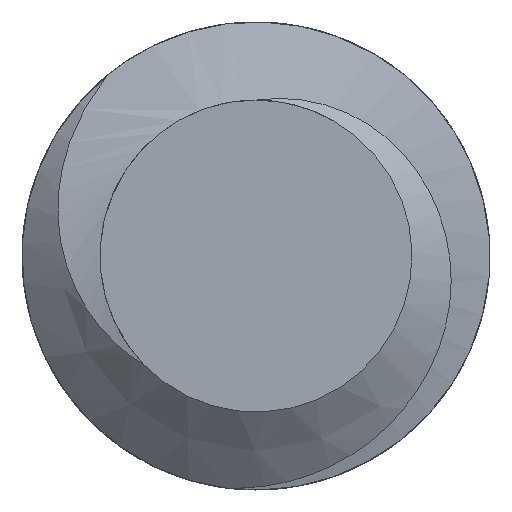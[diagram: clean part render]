
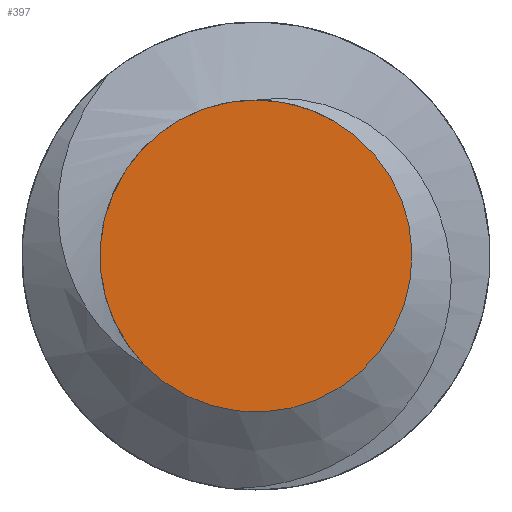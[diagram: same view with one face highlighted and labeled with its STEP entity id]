
A CAD part, front view. The second image highlights one B-rep face of the part: STEP entity #397.
In plain terms, the highlighted planar face has unit normal (0, -1, 0).
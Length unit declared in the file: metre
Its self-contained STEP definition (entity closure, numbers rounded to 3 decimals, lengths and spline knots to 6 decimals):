
#126=ORIENTED_EDGE('',*,*,#242,.F.);
#127=ORIENTED_EDGE('',*,*,#243,.T.);
#242=EDGE_CURVE('',#299,#300,#328,.T.);
#243=EDGE_CURVE('',#299,#300,#329,.T.);
#299=VERTEX_POINT('',#1048);
#300=VERTEX_POINT('',#1049);
#328=CIRCLE('',#437,0.004);
#329=CIRCLE('',#438,0.004);
#335=EDGE_LOOP('',(#126,#127));
#358=FACE_BOUND('',#335,.T.);
#380=PLANE('',#436);
#397=ADVANCED_FACE('',(#358),#380,.T.);
#436=AXIS2_PLACEMENT_3D('',#1046,#483,#484);
#437=AXIS2_PLACEMENT_3D('',#1047,#485,#486);
#438=AXIS2_PLACEMENT_3D('',#1050,#487,#488);
#483=DIRECTION('',(0.,-1.,0.));
#484=DIRECTION('',(1.,0.,0.));
#485=DIRECTION('',(0.,1.,0.));
#486=DIRECTION('',(0.,0.,1.));
#487=DIRECTION('',(0.,-1.,0.));
#488=DIRECTION('',(0.,0.,-1.));
#1046=CARTESIAN_POINT('',(-0.007207,-0.0569,0.007066));
#1047=CARTESIAN_POINT('',(-0.007207,-0.0569,0.007066));
#1048=CARTESIAN_POINT('',(-0.010085,-0.0569,0.004288));
#1049=CARTESIAN_POINT('',(-0.007207,-0.0569,0.011066));
#1050=CARTESIAN_POINT('',(-0.007207,-0.0569,0.007066));
